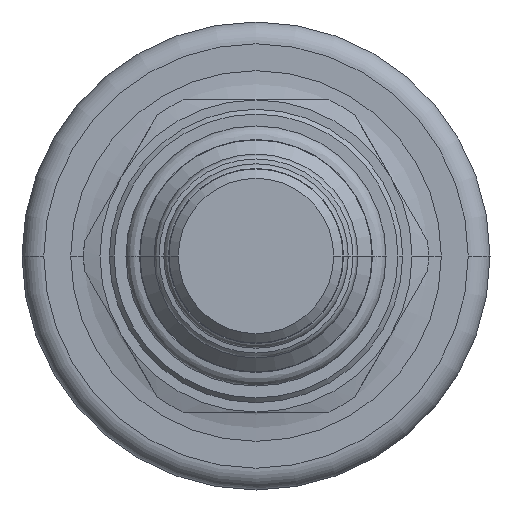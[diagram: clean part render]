
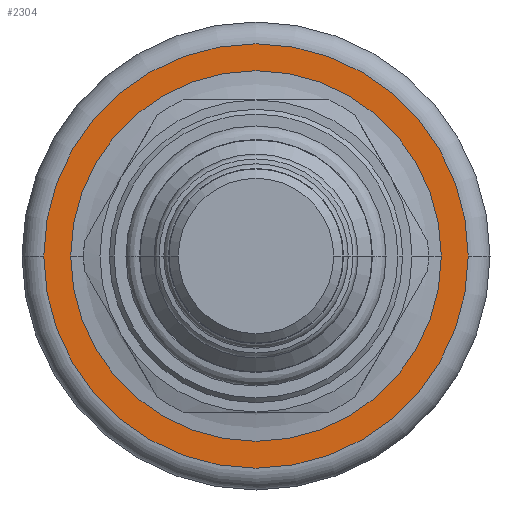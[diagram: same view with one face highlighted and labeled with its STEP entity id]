
A CAD part, front view. The second image highlights one B-rep face of the part: STEP entity #2304.
In plain terms, the highlighted planar face has unit normal (0, -1, 0).
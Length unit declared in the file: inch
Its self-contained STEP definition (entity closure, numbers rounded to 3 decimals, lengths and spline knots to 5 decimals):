
#317=CARTESIAN_POINT('',(0.,3.218,0.));
#318=DIRECTION('',(0.,1.,0.));
#319=DIRECTION('',(1.,0.,0.));
#320=AXIS2_PLACEMENT_3D('',#317,#318,#319);
#322=CARTESIAN_POINT('',(0.,3.218,0.));
#323=DIRECTION('',(0.,-1.,0.));
#324=DIRECTION('',(1.,0.,0.));
#325=AXIS2_PLACEMENT_3D('',#322,#323,#324);
#327=CARTESIAN_POINT('',(0.,3.218,0.));
#328=DIRECTION('',(0.,-1.,0.));
#329=DIRECTION('',(1.,0.,0.));
#330=AXIS2_PLACEMENT_3D('',#327,#328,#329);
#342=CARTESIAN_POINT('',(0.,3.218,0.));
#343=DIRECTION('',(0.,1.,0.));
#344=DIRECTION('',(1.,0.,0.));
#345=AXIS2_PLACEMENT_3D('',#342,#343,#344);
#1947=CARTESIAN_POINT('',(0.59375,3.218,0.));
#1948=VERTEX_POINT('',#1947);
#1949=CARTESIAN_POINT('',(0.68,3.218,0.));
#1951=VERTEX_POINT('',#1949);
#1959=CARTESIAN_POINT('',(-0.59375,3.218,0.));
#1960=VERTEX_POINT('',#1959);
#1961=CARTESIAN_POINT('',(-0.68,3.218,0.));
#1963=VERTEX_POINT('',#1961);
#2289=CARTESIAN_POINT('',(0.,3.218,0.));
#2290=DIRECTION('',(0.,-1.,0.));
#2291=DIRECTION('',(-1.,0.,0.));
#2292=AXIS2_PLACEMENT_3D('',#2289,#2290,#2291);
#2293=PLANE('',#2292);
#2295=ORIENTED_EDGE('',*,*,#2294,.F.);
#2297=ORIENTED_EDGE('',*,*,#2296,.T.);
#2298=EDGE_LOOP('',(#2295,#2297));
#2299=FACE_OUTER_BOUND('',#2298,.F.);
#2300=ORIENTED_EDGE('',*,*,#2282,.F.);
#2301=ORIENTED_EDGE('',*,*,#2271,.T.);
#2302=EDGE_LOOP('',(#2300,#2301));
#2303=FACE_BOUND('',#2302,.F.);
#2304=ADVANCED_FACE('',(#2299,#2303),#2293,.T.);
#321=CIRCLE('',#320,0.59375);
#326=CIRCLE('',#325,0.59375);
#331=CIRCLE('',#330,0.68);
#346=CIRCLE('',#345,0.68);
#2271=EDGE_CURVE('',#1948,#1960,#326,.T.);
#2282=EDGE_CURVE('',#1948,#1960,#321,.T.);
#2294=EDGE_CURVE('',#1951,#1963,#331,.T.);
#2296=EDGE_CURVE('',#1951,#1963,#346,.T.);
